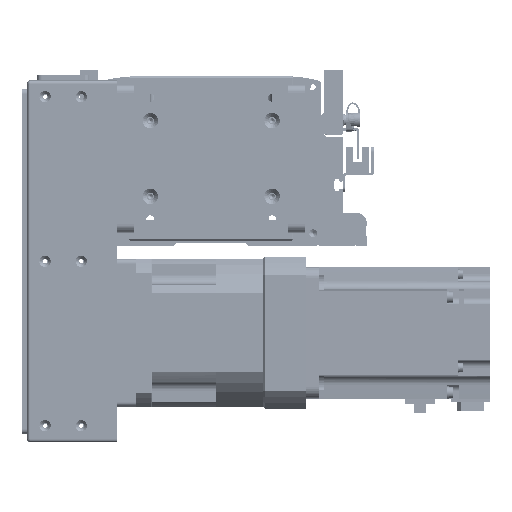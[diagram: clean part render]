
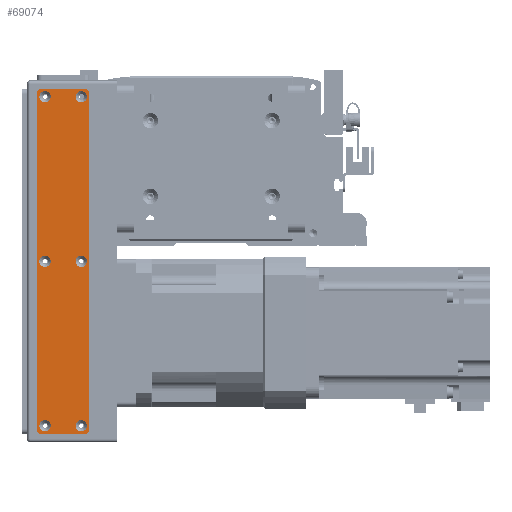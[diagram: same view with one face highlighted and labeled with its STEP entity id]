
A CAD part, front view. The second image highlights one B-rep face of the part: STEP entity #69074.
In plain terms, the highlighted planar face has unit normal (0, -1, 0).
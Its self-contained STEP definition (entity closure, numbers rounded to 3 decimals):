
#1905=FACE_BOUND('',#14418,.T.);
#1906=FACE_BOUND('',#14419,.T.);
#1907=FACE_BOUND('',#14420,.T.);
#1908=FACE_BOUND('',#14421,.T.);
#1909=FACE_BOUND('',#14422,.T.);
#1910=FACE_BOUND('',#14423,.T.);
#5262=PLANE('',#76453);
#10023=FACE_OUTER_BOUND('',#14417,.T.);
#14417=EDGE_LOOP('',(#65100,#65101,#65102,#65103,#65104,#65105,#65106,#65107));
#14418=EDGE_LOOP('',(#65108));
#14419=EDGE_LOOP('',(#65109));
#14420=EDGE_LOOP('',(#65110));
#14421=EDGE_LOOP('',(#65111));
#14422=EDGE_LOOP('',(#65112));
#14423=EDGE_LOOP('',(#65113));
#20780=LINE('',#118947,#27136);
#20781=LINE('',#118951,#27137);
#20782=LINE('',#118955,#27138);
#20783=LINE('',#118958,#27139);
#27136=VECTOR('',#96260,10.);
#27137=VECTOR('',#96263,10.);
#27138=VECTOR('',#96266,10.);
#27139=VECTOR('',#96269,10.);
#29812=CIRCLE('',#76421,3.45);
#29815=CIRCLE('',#76426,3.45);
#29818=CIRCLE('',#76431,3.45);
#29821=CIRCLE('',#76436,3.45);
#29824=CIRCLE('',#76441,3.45);
#29827=CIRCLE('',#76446,3.45);
#29830=CIRCLE('',#76451,3.);
#29832=CIRCLE('',#76454,3.);
#29833=CIRCLE('',#76455,3.);
#29834=CIRCLE('',#76456,3.);
#36181=VERTEX_POINT('',#118877);
#36184=VERTEX_POINT('',#118887);
#36187=VERTEX_POINT('',#118897);
#36190=VERTEX_POINT('',#118907);
#36193=VERTEX_POINT('',#118917);
#36196=VERTEX_POINT('',#118927);
#36199=VERTEX_POINT('',#118937);
#36200=VERTEX_POINT('',#118938);
#36203=VERTEX_POINT('',#118946);
#36204=VERTEX_POINT('',#118948);
#36205=VERTEX_POINT('',#118950);
#36206=VERTEX_POINT('',#118952);
#36207=VERTEX_POINT('',#118954);
#36208=VERTEX_POINT('',#118956);
#45808=EDGE_CURVE('',#36181,#36181,#29812,.T.);
#45813=EDGE_CURVE('',#36184,#36184,#29815,.T.);
#45818=EDGE_CURVE('',#36187,#36187,#29818,.T.);
#45823=EDGE_CURVE('',#36190,#36190,#29821,.T.);
#45828=EDGE_CURVE('',#36193,#36193,#29824,.T.);
#45833=EDGE_CURVE('',#36196,#36196,#29827,.T.);
#45838=EDGE_CURVE('',#36199,#36200,#29830,.T.);
#45842=EDGE_CURVE('',#36199,#36203,#20780,.T.);
#45843=EDGE_CURVE('',#36204,#36203,#29832,.T.);
#45844=EDGE_CURVE('',#36204,#36205,#20781,.T.);
#45845=EDGE_CURVE('',#36206,#36205,#29833,.T.);
#45846=EDGE_CURVE('',#36206,#36207,#20782,.T.);
#45847=EDGE_CURVE('',#36208,#36207,#29834,.T.);
#45848=EDGE_CURVE('',#36208,#36200,#20783,.T.);
#65100=ORIENTED_EDGE('',*,*,#45838,.F.);
#65101=ORIENTED_EDGE('',*,*,#45842,.T.);
#65102=ORIENTED_EDGE('',*,*,#45843,.F.);
#65103=ORIENTED_EDGE('',*,*,#45844,.T.);
#65104=ORIENTED_EDGE('',*,*,#45845,.F.);
#65105=ORIENTED_EDGE('',*,*,#45846,.T.);
#65106=ORIENTED_EDGE('',*,*,#45847,.F.);
#65107=ORIENTED_EDGE('',*,*,#45848,.T.);
#65108=ORIENTED_EDGE('',*,*,#45808,.T.);
#65109=ORIENTED_EDGE('',*,*,#45813,.T.);
#65110=ORIENTED_EDGE('',*,*,#45818,.T.);
#65111=ORIENTED_EDGE('',*,*,#45823,.T.);
#65112=ORIENTED_EDGE('',*,*,#45828,.T.);
#65113=ORIENTED_EDGE('',*,*,#45833,.T.);
#69074=ADVANCED_FACE('',(#10023,#1905,#1906,#1907,#1908,#1909,#1910),#5262,
 .T.);
#76421=AXIS2_PLACEMENT_3D('',#118878,#96180,#96181);
#76426=AXIS2_PLACEMENT_3D('',#118888,#96192,#96193);
#76431=AXIS2_PLACEMENT_3D('',#118898,#96204,#96205);
#76436=AXIS2_PLACEMENT_3D('',#118908,#96216,#96217);
#76441=AXIS2_PLACEMENT_3D('',#118918,#96228,#96229);
#76446=AXIS2_PLACEMENT_3D('',#118928,#96240,#96241);
#76451=AXIS2_PLACEMENT_3D('',#118939,#96252,#96253);
#76453=AXIS2_PLACEMENT_3D('',#118945,#96258,#96259);
#76454=AXIS2_PLACEMENT_3D('',#118949,#96261,#96262);
#76455=AXIS2_PLACEMENT_3D('',#118953,#96264,#96265);
#76456=AXIS2_PLACEMENT_3D('',#118957,#96267,#96268);
#96180=DIRECTION('center_axis',(0.,1.,0.));
#96181=DIRECTION('ref_axis',(1.,0.,0.));
#96192=DIRECTION('center_axis',(0.,1.,0.));
#96193=DIRECTION('ref_axis',(1.,0.,0.));
#96204=DIRECTION('center_axis',(0.,1.,0.));
#96205=DIRECTION('ref_axis',(1.,0.,0.));
#96216=DIRECTION('center_axis',(0.,1.,0.));
#96217=DIRECTION('ref_axis',(1.,0.,0.));
#96228=DIRECTION('center_axis',(0.,1.,0.));
#96229=DIRECTION('ref_axis',(1.,0.,0.));
#96240=DIRECTION('center_axis',(0.,1.,0.));
#96241=DIRECTION('ref_axis',(1.,0.,0.));
#96252=DIRECTION('center_axis',(0.,1.,0.));
#96253=DIRECTION('ref_axis',(-0.707,0.,0.707));
#96258=DIRECTION('center_axis',(0.,-1.,0.));
#96259=DIRECTION('ref_axis',(0.,0.,-1.));
#96260=DIRECTION('',(0.,0.,-1.));
#96261=DIRECTION('center_axis',(0.,1.,0.));
#96262=DIRECTION('ref_axis',(-0.707,0.,-0.707));
#96263=DIRECTION('',(1.,0.,0.));
#96264=DIRECTION('center_axis',(0.,1.,0.));
#96265=DIRECTION('ref_axis',(0.707,0.,-0.707));
#96266=DIRECTION('',(0.,0.,1.));
#96267=DIRECTION('center_axis',(0.,1.,0.));
#96268=DIRECTION('ref_axis',(0.707,0.,0.707));
#96269=DIRECTION('',(-1.,0.,0.));
#118877=CARTESIAN_POINT('',(96.55,-1.5,11.));
#118878=CARTESIAN_POINT('Origin',(100.,-1.5,11.));
#118887=CARTESIAN_POINT('',(-103.45,-1.5,-11.));
#118888=CARTESIAN_POINT('Origin',(-100.,-1.5,-11.));
#118897=CARTESIAN_POINT('',(-3.45,-1.5,11.));
#118898=CARTESIAN_POINT('Origin',(0.,-1.5,11.));
#118907=CARTESIAN_POINT('',(-3.45,-1.5,-11.));
#118908=CARTESIAN_POINT('Origin',(0.,-1.5,-11.));
#118917=CARTESIAN_POINT('',(-103.45,-1.5,11.));
#118918=CARTESIAN_POINT('Origin',(-100.,-1.5,11.));
#118927=CARTESIAN_POINT('',(96.55,-1.5,-11.));
#118928=CARTESIAN_POINT('Origin',(100.,-1.5,-11.));
#118937=CARTESIAN_POINT('',(-105.,-1.5,13.));
#118938=CARTESIAN_POINT('',(-102.,-1.5,16.));
#118939=CARTESIAN_POINT('Origin',(-102.,-1.5,13.));
#118945=CARTESIAN_POINT('Origin',(0.,-1.5,0.));
#118946=CARTESIAN_POINT('',(-105.,-1.5,-13.));
#118947=CARTESIAN_POINT('',(-105.,-1.5,16.));
#118948=CARTESIAN_POINT('',(-102.,-1.5,-16.));
#118949=CARTESIAN_POINT('Origin',(-102.,-1.5,-13.));
#118950=CARTESIAN_POINT('',(102.,-1.5,-16.));
#118951=CARTESIAN_POINT('',(-105.,-1.5,-16.));
#118952=CARTESIAN_POINT('',(105.,-1.5,-13.));
#118953=CARTESIAN_POINT('Origin',(102.,-1.5,-13.));
#118954=CARTESIAN_POINT('',(105.,-1.5,13.));
#118955=CARTESIAN_POINT('',(105.,-1.5,-16.));
#118956=CARTESIAN_POINT('',(102.,-1.5,16.));
#118957=CARTESIAN_POINT('Origin',(102.,-1.5,13.));
#118958=CARTESIAN_POINT('',(105.,-1.5,16.));
